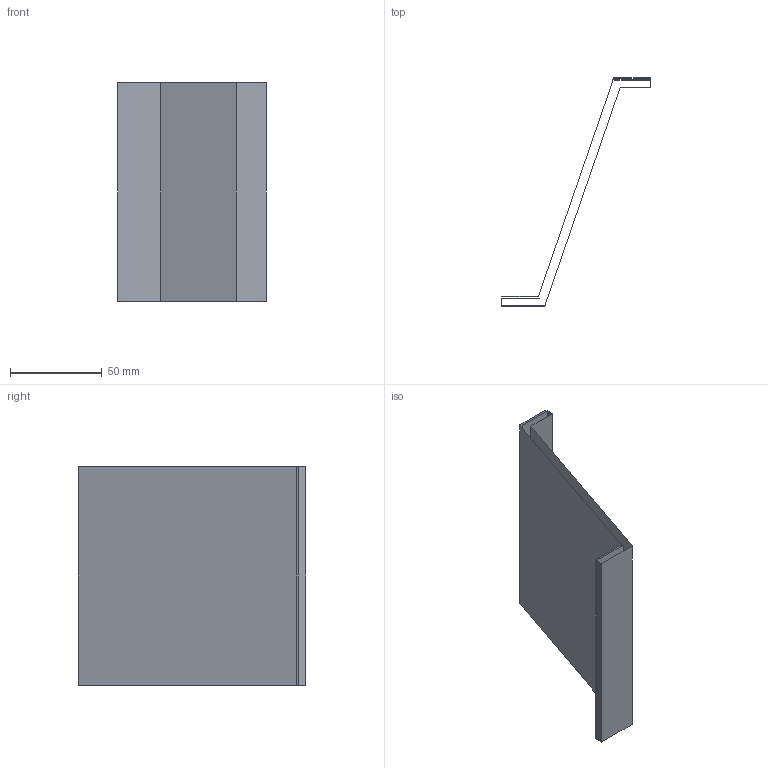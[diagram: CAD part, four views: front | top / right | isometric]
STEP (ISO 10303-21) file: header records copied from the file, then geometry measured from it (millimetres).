
FILE_DESCRIPTION(('CATIA V5 STEP Exchange'),'2;1');
FILE_NAME('C:\_Andres\UNIVERSIDAD\IQS\ASIGNATURAS\DAO\EXF\EXF-16172c\2inicio\Marra-Lopez_Llovet_Ej06_v19.stp','2017-03-05T21:01:26+00:00',('none'),('none'),'CATIA Version 5-6 Release 2014 SP1 HF18','CATIA V5 STEP AP203','none');
FILE_SCHEMA(('CONFIG_CONTROL_DESIGN'));
Length unit declared in the file: millimetre
Products named in the file (1): Marra-Lopez_Llovet_Ej06_v19
Bounding box: 81 x 124 x 119 mm (x, y, z)
Surface area: 45187.9 mm2 (no closed solid volume)
Topology: 0 solids, 2 shells, 10 faces, 42 edges, 36 vertices
Faces by surface type: plane 10
Entity records: 461 total; most frequent: CARTESIAN_POINT 100, DIRECTION 59, ORIENTED_EDGE 40, VECTOR 39, LINE 39, EDGE_CURVE 32, VERTEX_POINT 24, AXIS2_PLACEMENT_3D 11
